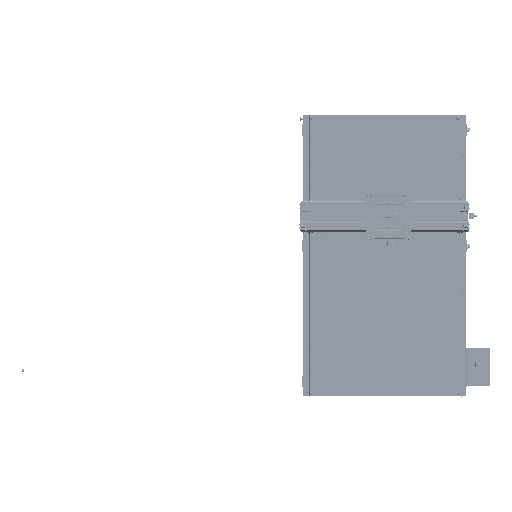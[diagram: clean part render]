
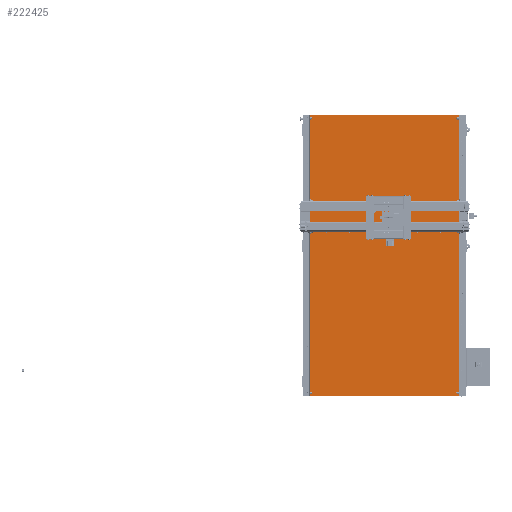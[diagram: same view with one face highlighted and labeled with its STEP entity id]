
A CAD part, top view. The second image highlights one B-rep face of the part: STEP entity #222425.
In plain terms, the highlighted planar face has unit normal (0, 0, 1) as drawn and (0, 0, -1) by its records, which use the part's own axes.
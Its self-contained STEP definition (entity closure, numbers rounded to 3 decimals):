
#222417=AXIS2_PLACEMENT_3D('Plane Axis2P3D',#222414,#222415,#222416) ;
#222299=CARTESIAN_POINT('Vertex',(0.,0.,0.)) ;
#222304=CARTESIAN_POINT('Line Origine',(1500.,0.,0.)) ;
#222308=CARTESIAN_POINT('Vertex',(3000.,0.,0.)) ;
#222335=CARTESIAN_POINT('Line Origine',(3000.,800.,0.)) ;
#222339=CARTESIAN_POINT('Vertex',(3000.,1600.,0.)) ;
#222366=CARTESIAN_POINT('Line Origine',(1500.,1600.,0.)) ;
#222370=CARTESIAN_POINT('Vertex',(0.,1600.,0.)) ;
#222397=CARTESIAN_POINT('Line Origine',(0.,800.,0.)) ;
#222414=CARTESIAN_POINT('Axis2P3D Location',(0.,0.,0.)) ;
#222305=DIRECTION('Vector Direction',(1.,0.,0.)) ;
#222336=DIRECTION('Vector Direction',(0.,1.,0.)) ;
#222367=DIRECTION('Vector Direction',(-1.,0.,0.)) ;
#222398=DIRECTION('Vector Direction',(0.,-1.,0.)) ;
#222415=DIRECTION('Axis2P3D Direction',(0.,0.,1.)) ;
#222416=DIRECTION('Axis2P3D XDirection',(1.,0.,0.)) ;
#222306=VECTOR('Line Direction',#222305,1.) ;
#222337=VECTOR('Line Direction',#222336,1.) ;
#222368=VECTOR('Line Direction',#222367,1.) ;
#222399=VECTOR('Line Direction',#222398,1.) ;
#222420=ORIENTED_EDGE('',*,*,#222401,.F.) ;
#222421=ORIENTED_EDGE('',*,*,#222372,.F.) ;
#222422=ORIENTED_EDGE('',*,*,#222341,.F.) ;
#222423=ORIENTED_EDGE('',*,*,#222310,.F.) ;
#222425=ADVANCED_FACE('Corps principal',(#222424),#222418,.F.) ;
#222310=EDGE_CURVE('',#222300,#222309,#222307,.T.) ;
#222341=EDGE_CURVE('',#222309,#222340,#222338,.T.) ;
#222372=EDGE_CURVE('',#222340,#222371,#222369,.T.) ;
#222401=EDGE_CURVE('',#222371,#222300,#222400,.T.) ;
#222419=EDGE_LOOP('',(#222420,#222421,#222422,#222423)) ;
#222424=FACE_OUTER_BOUND('',#222419,.T.) ;
#222307=LINE('Line',#222304,#222306) ;
#222338=LINE('Line',#222335,#222337) ;
#222369=LINE('Line',#222366,#222368) ;
#222400=LINE('Line',#222397,#222399) ;
#222418=PLANE('',#222417) ;
#222300=VERTEX_POINT('',#222299) ;
#222309=VERTEX_POINT('',#222308) ;
#222340=VERTEX_POINT('',#222339) ;
#222371=VERTEX_POINT('',#222370) ;
